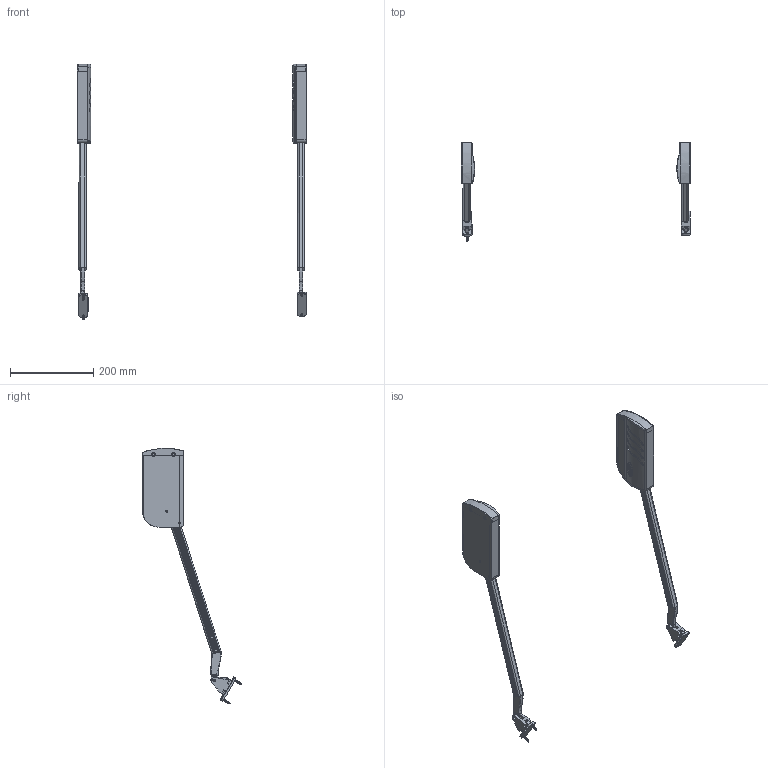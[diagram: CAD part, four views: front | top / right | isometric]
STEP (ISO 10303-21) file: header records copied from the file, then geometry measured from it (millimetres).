
FILE_DESCRIPTION(/* description */ (''),/* implementation_level */ '2;1');
FILE_NAME(/* name */ 'C:\Users\dmitruk\Documents\WORK\Подъемники\Подъемники\Подъемник HERMES открыто.stp',/* time_stamp */ '2022-08-03T17:35:39+03:00',/* author */ ('dmitruk'),/* organization */ (''),/* preprocessor_version */ 'ST-DEVELOPER v16.5',/* originating_system */ 'Autodesk Inventor 2017',/* authorisation */ '');
FILE_SCHEMA (('AUTOMOTIVE_DESIGN { 1 0 10303 214 3 1 1 }'));
Length unit declared in the file: millimetre
Products named in the file (10): Подъем HERMES; Крышка \X2\043F043E0434044A0435
043C043D0438043A0430\X0\; Механизм; Рычаг; Крепл; p50; Механизм1; Рычаг1; Крепл1; Крышка \X2\043F043E0434044A0435
043C043D0438043A0430\X0\ 1
Assembly tree (10 placements, depth 2):
  Подъем HERMES
    Крышка \X2\043F043E0434044A0435
043C043D0438043A0430\X0\
    Механизм
    Рычаг
    Крепл
    p50  x2
    Механизм1
    Рычаг1
    Крепл1
    Крышка \X2\043F043E0434044A0435
043C043D0438043A0430\X0\ 1
Bounding box: 552.04 x 238.71 x 615.16 mm (x, y, z)
Volume: 906174.3 mm3; surface area: 367387.9 mm2
Topology: 12 solids, 12 shells, 870 faces, 2444 edges, 1604 vertices
Faces by surface type: cylinder 410, plane 352, bspline 58, torus 26, cone 24
Full cylindrical faces by diameter (mm): 2.9 x38, 4 x2, 5 x14, 6 x4, 7 x8, 47.803 x2
Entity records: 32071 total; most frequent: CARTESIAN_POINT 11719, ORIENTED_EDGE 4404, DIRECTION 3949, EDGE_CURVE 2198, VERTEX_POINT 1459, AXIS2_PLACEMENT_3D 1439, LINE 1071, VECTOR 1071
